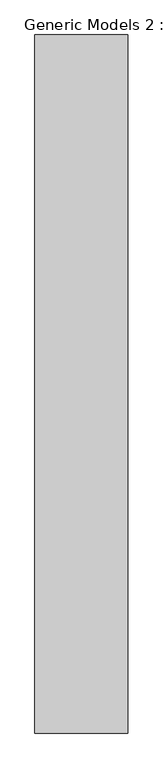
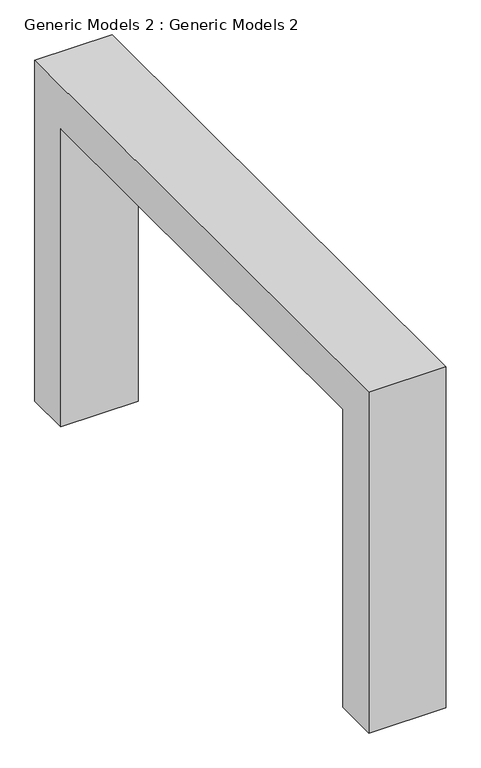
"""IFC4 building model written with IfcOpenShell, lengths in millimetres: proxy geometry, Generic Models 2 : Generic Models 2."""

import ifcopenshell
import ifcopenshell.guid

model = None  # the IFC model being written
_history = None  # IfcOwnerHistory: only IFC2X3 demands one
_inside = {}  # id of a spatial element -> (the spatial element, [elements in it])
_under = {}  # id of a project, library or spatial element -> (it, [spatial elements below it])
_declared = {}  # id of a project -> (the project, [libraries it declares])
_typed = {}  # id of a type object -> (the type object, [elements of that type])
_made_of = {}  # id of a material, layer set ... -> (it, [elements and type objects made of it])


def new_model(schema):
    """Start an empty IFC model of exactly this schema.

    Asked for "IFC4X3", IfcOpenShell would pick the latest addendum, in which some entities
    have other attributes; the version numbers below select the first issue.
    IFC2X3 requires an IfcOwnerHistory on every rooted entity: one is made here for all.
    """
    global model, _history
    if schema == "IFC4X3":
        model = ifcopenshell.file(schema_version=(4, 3, 0, 0))
    else:
        model = ifcopenshell.file(schema=schema)
    _inside.clear()
    _under.clear()
    _declared.clear()
    _typed.clear()
    _made_of.clear()
    _history = None
    if model.schema == "IFC2X3":
        org = make("IfcOrganization", Name="unknown")
        user = make(
            "IfcPersonAndOrganization",
            ThePerson=make("IfcPerson", FamilyName="unknown"),
            TheOrganization=org,
        )
        app = make(
            "IfcApplication",
            ApplicationDeveloper=org,
            Version="unknown",
            ApplicationFullName="unknown",
            ApplicationIdentifier="unknown",
        )
        _history = make(
            "IfcOwnerHistory",
            OwningUser=user,
            OwningApplication=app,
            ChangeAction="ADDED",
            CreationDate=0,
        )
    return model


def make(cls, **values):
    """One entity of the class cls with the attributes given. An attribute that is None is left unset."""
    return model.create_entity(
        cls, **{name: value for name, value in values.items() if value is not None}
    )


def rooted(cls, **values):
    """An entity with a GlobalId (a new one), such as an element, a storey or a relation."""
    return make(cls, GlobalId=ifcopenshell.guid.new(), OwnerHistory=_history, **values)


def si_unit(unit_type, name, prefix=None):
    """IfcSIUnit, for example si_unit("LENGTHUNIT", "METRE", prefix="MILLI")."""
    return make("IfcSIUnit", UnitType=unit_type, Prefix=prefix, Name=name)


def assignment(units):
    """IfcUnitAssignment: the units of a project."""
    return None if units is None else make("IfcUnitAssignment", Units=units)


def point(xyz):
    """IfcCartesianPoint."""
    return None if xyz is None else make("IfcCartesianPoint", Coordinates=xyz)


def direction(xyz):
    """IfcDirection."""
    return None if xyz is None else make("IfcDirection", DirectionRatios=xyz)


def frame(location, z_axis=None, x_axis=None):
    """IfcAxis2Placement3D, a coordinate frame: its origin and axes. An axis left out is left unset."""
    return make(
        "IfcAxis2Placement3D",
        Location=point(location),
        Axis=direction(z_axis),
        RefDirection=direction(x_axis),
    )


def origin():
    """The frame at (0, 0, 0) with its axes left unset."""
    return frame((0.0, 0.0, 0.0))


def place(relative_to, where):
    """IfcLocalPlacement: puts the frame where relative to a parent placement (None: the world)."""
    return make(
        "IfcLocalPlacement", PlacementRelTo=relative_to, RelativePlacement=where
    )


def context(
    kind, dimensions, precision=None, world=None, true_north=None, identifier=None
):
    """IfcGeometricRepresentationContext, for example the 3D "Model" context."""
    return make(
        "IfcGeometricRepresentationContext",
        ContextIdentifier=identifier,
        ContextType=kind,
        CoordinateSpaceDimension=dimensions,
        Precision=precision,
        WorldCoordinateSystem=world,
        TrueNorth=true_north,
    )


def project(units=None, contexts=None):
    """IfcProject with its units and contexts."""
    return rooted(
        "IfcProject",
        Name="project",
        RepresentationContexts=contexts,
        UnitsInContext=assignment(units),
    )


def spatial(cls, under=None, at=None, **own):
    """A site, building, storey or space (cls), placed at a placement, below another one or the project."""
    s = rooted(cls, ObjectPlacement=at, **own)
    if under is not None:
        _under.setdefault(under.id(), (under, []))[1].append(s)
    return s


def polyline(points):
    """IfcPolyline through the points."""
    return make("IfcPolyline", Points=[point(p) for p in points])


def outline(outer, holes=None, kind="AREA"):
    """IfcArbitraryClosedProfileDef: a profile drawn as a closed curve; with holes, ...WithVoids."""
    if holes is None:
        return make("IfcArbitraryClosedProfileDef", ProfileType=kind, OuterCurve=outer)
    return make(
        "IfcArbitraryProfileDefWithVoids",
        ProfileType=kind,
        OuterCurve=outer,
        InnerCurves=holes,
    )


def extrude(swept, where, along, depth):
    """IfcExtrudedAreaSolid: the profile swept, set in the frame where, extruded along a direction by depth."""
    return make(
        "IfcExtrudedAreaSolid",
        SweptArea=swept,
        Position=where,
        ExtrudedDirection=direction(along),
        Depth=depth,
    )


def shape(context_of_items, identifier, shape_type, items):
    """IfcShapeRepresentation: the items that make up one representation, for example the "Body"."""
    return make(
        "IfcShapeRepresentation",
        ContextOfItems=context_of_items,
        RepresentationIdentifier=identifier,
        RepresentationType=shape_type,
        Items=items,
    )


def source(mapping_origin, context_of_items, identifier, shape_type, items):
    """IfcRepresentationMap: a shape defined once, which mapped items show again and again."""
    return make(
        "IfcRepresentationMap",
        MappingOrigin=mapping_origin,
        MappedRepresentation=shape(context_of_items, identifier, shape_type, items),
    )


def transform(
    local_origin,
    x_axis=None,
    y_axis=None,
    z_axis=None,
    scale=None,
    scale2=None,
    scale3=None,
    uniform=True,
):
    """IfcCartesianTransformationOperator3D, or its non-uniform kind. x_axis, y_axis, z_axis: its Axis1, 2, 3."""
    if uniform:
        return make(
            "IfcCartesianTransformationOperator3D",
            Axis1=direction(x_axis),
            Axis2=direction(y_axis),
            LocalOrigin=point(local_origin),
            Scale=scale,
            Axis3=direction(z_axis),
        )
    return make(
        "IfcCartesianTransformationOperator3DnonUniform",
        Axis1=direction(x_axis),
        Axis2=direction(y_axis),
        LocalOrigin=point(local_origin),
        Scale=scale,
        Axis3=direction(z_axis),
        Scale2=scale2,
        Scale3=scale3,
    )


def mapped(mapping_source, mapping_target):
    """IfcMappedItem: shows the shape of a source again, moved by a transform."""
    return make(
        "IfcMappedItem", MappingSource=mapping_source, MappingTarget=mapping_target
    )


def made_of(thing, what):
    """Note that an element or type object is made of a material, layer set ...; save() writes the relation."""
    if what is not None:
        _made_of.setdefault(what.id(), (what, []))[1].append(thing)
    return thing


def element(
    cls,
    number,
    at=None,
    inside=None,
    cuts=None,
    type_object=None,
    material=None,
    context=None,
    identifier="Body",
    shape_type=None,
    held_by="IfcProductDefinitionShape",
    body=None,
    shapes=None,
    **own,
):
    """One element of the class cls, such as IfcWall. Its Tag is "e" and its number.

    at: its placement. inside: the storey or other place that contains it. cuts: it is an
    opening in that element (IfcRelVoidsElement). A single representation is given by context,
    identifier, shape_type and body (its items); several are given by shapes. held_by: the class
    of the entity that holds the representations. save() writes the other relations.
    """
    e = rooted(cls, Tag="e%d" % number, ObjectPlacement=at, **own)
    if body is not None:
        shapes = [shape(context, identifier, shape_type, body)]
    if shapes is not None:
        e.Representation = make(held_by, Representations=shapes)
    if inside is not None:
        _inside.setdefault(inside.id(), (inside, []))[1].append(e)
    if cuts is not None:
        rooted(
            "IfcRelVoidsElement", RelatingBuildingElement=cuts, RelatedOpeningElement=e
        )
    if type_object is not None:
        _typed.setdefault(type_object.id(), (type_object, []))[1].append(e)
    return made_of(e, material)


def aggregate(whole, parts):
    """IfcRelAggregates: a whole, such as a stair, and the parts it consists of."""
    return rooted("IfcRelAggregates", RelatingObject=whole, RelatedObjects=parts)


def save(model, path):
    """Write the relations noted so far, then the file.

    IfcRelAggregates (storeys below a building ...), IfcRelContainedInSpatialStructure (elements
    in a storey), IfcRelDefinesByType, IfcRelAssociatesMaterial and IfcRelDeclares: one each for
    every whole, place, type object, material and project.
    """
    for whole, parts in _under.values():
        aggregate(whole, parts)
    for where, things in _inside.values():
        rooted(
            "IfcRelContainedInSpatialStructure",
            RelatedElements=things,
            RelatingStructure=where,
        )
    for kind, things in _typed.values():
        rooted("IfcRelDefinesByType", RelatedObjects=things, RelatingType=kind)
    for what, things in _made_of.values():
        rooted("IfcRelAssociatesMaterial", RelatedObjects=things, RelatingMaterial=what)
    for by, libraries in _declared.values():
        rooted("IfcRelDeclares", RelatingContext=by, RelatedDefinitions=libraries)
    model.write(path)


def generic_models_2_generic_models_2_3d615542(model_context):
    return source(origin(), model_context, "Body", "SweptSolid", [
        extrude(outline(polyline([(13066.9206658, 1000.0), (12716.9206658, 1000.0), (12716.9206658, 3450.0), (8916.9206658, 3450.0), (8916.9206658, 1000.0), (8566.9206658, 1000.0), (8566.9206658, 3800.0), (13066.9206658, 3800.0), (13066.9206658, 1000.0)])), frame((16943.1337784, 0.0, 0.0), z_axis=(1.0, 0.0, 0.0), x_axis=(0.0, 1.0, 0.0)), (0.0, 0.0, 1.0), 600.0),
    ])


if __name__ == "__main__":
    model = new_model("IFC4")
    model_context = context("Model", 3, world=origin())
    ifc_project = project(units=[si_unit("LENGTHUNIT", "METRE", prefix="MILLI")], contexts=[model_context])
    site = spatial("IfcSite", under=ifc_project)
    building = spatial("IfcBuilding", under=site)
    placement = place(None, origin())
    generic_models_2_generic_models_2_shape = generic_models_2_generic_models_2_3d615542(model_context)
    element("IfcBuildingElementProxy", 1, Name="Generic Models 2 : Generic Models 2", ObjectType="Generic Models 2 : Generic Models 2", at=placement, inside=building, context=model_context, shape_type="MappedRepresentation", body=[
        mapped(generic_models_2_generic_models_2_shape, transform((0.0, 0.0, 0.0), x_axis=(1.0, 0.0, 0.0), y_axis=(0.0, 1.0, 0.0), z_axis=(0.0, 0.0, 1.0))),
    ])
    save(model, "model.ifc")
